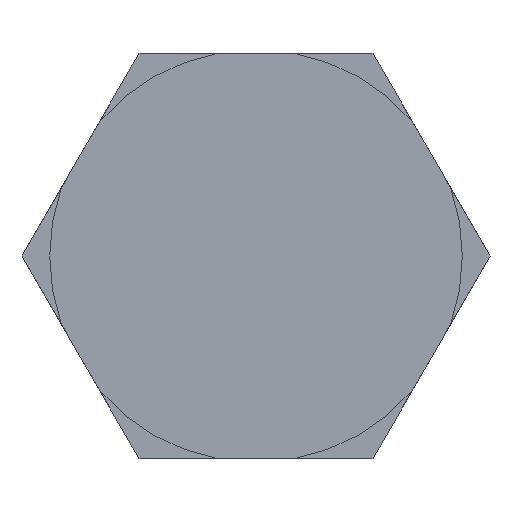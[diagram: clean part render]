
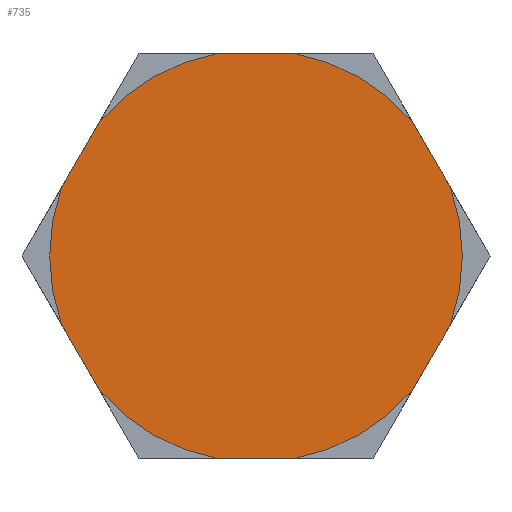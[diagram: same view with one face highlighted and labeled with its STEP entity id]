
A CAD part, left-side view. The second image highlights one B-rep face of the part: STEP entity #735.
In plain terms, the highlighted planar face has unit normal (-1, 0, 0).
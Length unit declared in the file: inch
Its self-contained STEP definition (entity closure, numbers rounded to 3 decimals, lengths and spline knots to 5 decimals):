
#35 = CIRCLE ( 'NONE', #587, 0.7635 ) ;
#112 = EDGE_LOOP ( 'NONE', ( #898, #887, #924, #881, #883, #886, #872, #935, #882, #908, #915, #932 ) ) ;
#137 = CARTESIAN_POINT ( 'NONE',  ( -3.019, -0.55577, -0.53738 ) ) ;
#139 = CARTESIAN_POINT ( 'NONE',  ( -3.019, -0.55577, 0.53738 ) ) ;
#140 = CARTESIAN_POINT ( 'NONE',  ( -3.019, 0.74327, 0.21262 ) ) ;
#145 = CARTESIAN_POINT ( 'NONE',  ( -3.019, 0.375, 0.75 ) ) ;
#149 = DIRECTION ( 'NONE',  ( 0., -0.5, 0.866 ) ) ;
#152 = DIRECTION ( 'NONE',  ( 0., 0.5, -0.866 ) ) ;
#153 = CARTESIAN_POINT ( 'NONE',  ( -3.019, 0.74327, -0.21262 ) ) ;
#154 = DIRECTION ( 'NONE',  ( 0., 1., 0. ) ) ;
#155 = DIRECTION ( 'NONE',  ( 0., 0.5, 0.866 ) ) ;
#160 = DIRECTION ( 'NONE',  ( 0., -1., 0. ) ) ;
#161 = DIRECTION ( 'NONE',  ( 0., -0.5, -0.866 ) ) ;
#163 = CARTESIAN_POINT ( 'NONE',  ( -3.019, 0.375, -0.75 ) ) ;
#167 = FACE_OUTER_BOUND ( 'NONE', #112, .T. ) ;
#184 = DIRECTION ( 'NONE',  ( 0., 0., 1. ) ) ;
#187 = CARTESIAN_POINT ( 'NONE',  ( -3.019, 0., 0. ) ) ;
#204 = DIRECTION ( 'NONE',  ( 0., 0., -1. ) ) ;
#216 = DIRECTION ( 'NONE',  ( 1., 0., 0. ) ) ;
#218 = PLANE ( 'NONE',  #559 ) ;
#222 = DIRECTION ( 'NONE',  ( 0., 0., -1. ) ) ;
#241 = DIRECTION ( 'NONE',  ( 1., 0., 0. ) ) ;
#244 = CARTESIAN_POINT ( 'NONE',  ( -3.019, 0.375, 0. ) ) ;
#255 = CARTESIAN_POINT ( 'NONE',  ( -3.019, 0., 0. ) ) ;
#261 = DIRECTION ( 'NONE',  ( -1., 0., 0. ) ) ;
#296 = CARTESIAN_POINT ( 'NONE',  ( -3.019, -0.14294, -0.75 ) ) ;
#301 = CARTESIAN_POINT ( 'NONE',  ( -3.019, -0.72099, -0.25121 ) ) ;
#302 = CARTESIAN_POINT ( 'NONE',  ( -3.019, 0.72099, -0.25121 ) ) ;
#317 = CARTESIAN_POINT ( 'NONE',  ( -3.019, -0.72099, 0.25121 ) ) ;
#320 = CARTESIAN_POINT ( 'NONE',  ( -3.019, 0.57805, -0.49879 ) ) ;
#336 = CARTESIAN_POINT ( 'NONE',  ( -3.019, -0.57805, -0.49879 ) ) ;
#347 = CARTESIAN_POINT ( 'NONE',  ( -3.019, 0.57805, 0.49879 ) ) ;
#355 = CARTESIAN_POINT ( 'NONE',  ( -3.019, -0.57805, 0.49879 ) ) ;
#356 = CARTESIAN_POINT ( 'NONE',  ( -3.019, 0.14294, -0.75 ) ) ;
#361 = CARTESIAN_POINT ( 'NONE',  ( -3.019, 0.72099, 0.25121 ) ) ;
#366 = CARTESIAN_POINT ( 'NONE',  ( -3.019, -0.14294, 0.75 ) ) ;
#371 = CARTESIAN_POINT ( 'NONE',  ( -3.019, 0.14294, 0.75 ) ) ;
#403 = VECTOR ( 'NONE', #155, 39.37008 ) ;
#404 = VECTOR ( 'NONE', #154, 39.37008 ) ;
#410 = LINE ( 'NONE', #137, #437 ) ;
#412 = LINE ( 'NONE', #139, #403 ) ;
#413 = LINE ( 'NONE', #153, #425 ) ;
#414 = VECTOR ( 'NONE', #152, 39.37008 ) ;
#425 = VECTOR ( 'NONE', #161, 39.37008 ) ;
#433 = CIRCLE ( 'NONE', #590, 0.7635 ) ;
#437 = VECTOR ( 'NONE', #149, 39.37008 ) ;
#438 = CIRCLE ( 'NONE', #591, 0.7635 ) ;
#442 = CIRCLE ( 'NONE', #589, 0.7635 ) ;
#454 = LINE ( 'NONE', #163, #460 ) ;
#458 = LINE ( 'NONE', #140, #414 ) ;
#459 = LINE ( 'NONE', #145, #404 ) ;
#460 = VECTOR ( 'NONE', #160, 39.37008 ) ;
#473 = EDGE_CURVE ( 'NONE', #927, #956, #454, .T. ) ;
#474 = EDGE_CURVE ( 'NONE', #949, #911, #412, .T. ) ;
#475 = EDGE_CURVE ( 'NONE', #940, #950, #459, .T. ) ;
#476 = EDGE_CURVE ( 'NONE', #902, #930, #458, .T. ) ;
#481 = EDGE_CURVE ( 'NONE', #954, #943, #410, .T. ) ;
#482 = EDGE_CURVE ( 'NONE', #878, #951, #413, .T. ) ;
#490 = EDGE_CURVE ( 'NONE', #954, #956, #438, .T. ) ;
#499 = EDGE_CURVE ( 'NONE', #949, #943, #433, .T. ) ;
#502 = EDGE_CURVE ( 'NONE', #902, #950, #442, .T. ) ;
#515 = EDGE_CURVE ( 'NONE', #940, #911, #35, .T. ) ;
#559 = AXIS2_PLACEMENT_3D ( 'NONE', #244, #261, #184 ) ;
#571 = AXIS2_PLACEMENT_3D ( 'NONE', #255, #241, #204 ) ;
#572 = AXIS2_PLACEMENT_3D ( 'NONE', #187, #216, #222 ) ;
#587 = AXIS2_PLACEMENT_3D ( 'NONE', #832, #847, #846 ) ;
#589 = AXIS2_PLACEMENT_3D ( 'NONE', #773, #838, #850 ) ;
#590 = AXIS2_PLACEMENT_3D ( 'NONE', #827, #788, #836 ) ;
#591 = AXIS2_PLACEMENT_3D ( 'NONE', #839, #786, #840 ) ;
#617 = EDGE_CURVE ( 'NONE', #878, #930, #631, .T. ) ;
#619 = EDGE_CURVE ( 'NONE', #927, #951, #625, .T. ) ;
#625 = CIRCLE ( 'NONE', #571, 0.7635 ) ;
#631 = CIRCLE ( 'NONE', #572, 0.7635 ) ;
#735 = ADVANCED_FACE ( 'NONE', ( #167 ), #218, .T. ) ;
#773 = CARTESIAN_POINT ( 'NONE',  ( -3.019, 0., 0. ) ) ;
#786 = DIRECTION ( 'NONE',  ( 1., 0., 0. ) ) ;
#788 = DIRECTION ( 'NONE',  ( 1., 0., 0. ) ) ;
#827 = CARTESIAN_POINT ( 'NONE',  ( -3.019, 0., 0. ) ) ;
#832 = CARTESIAN_POINT ( 'NONE',  ( -3.019, 0., 0. ) ) ;
#836 = DIRECTION ( 'NONE',  ( 0., 0., -1. ) ) ;
#838 = DIRECTION ( 'NONE',  ( 1., 0., 0. ) ) ;
#839 = CARTESIAN_POINT ( 'NONE',  ( -3.019, 0., 0. ) ) ;
#840 = DIRECTION ( 'NONE',  ( 0., 0., -1. ) ) ;
#846 = DIRECTION ( 'NONE',  ( 0., 0., -1. ) ) ;
#847 = DIRECTION ( 'NONE',  ( 1., 0., 0. ) ) ;
#850 = DIRECTION ( 'NONE',  ( 0., 0., -1. ) ) ;
#872 = ORIENTED_EDGE ( 'NONE', *, *, #499, .F. ) ;
#878 = VERTEX_POINT ( 'NONE', #302 ) ;
#881 = ORIENTED_EDGE ( 'NONE', *, *, #473, .T. ) ;
#882 = ORIENTED_EDGE ( 'NONE', *, *, #515, .F. ) ;
#883 = ORIENTED_EDGE ( 'NONE', *, *, #490, .F. ) ;
#886 = ORIENTED_EDGE ( 'NONE', *, *, #481, .T. ) ;
#887 = ORIENTED_EDGE ( 'NONE', *, *, #482, .T. ) ;
#898 = ORIENTED_EDGE ( 'NONE', *, *, #617, .F. ) ;
#902 = VERTEX_POINT ( 'NONE', #347 ) ;
#908 = ORIENTED_EDGE ( 'NONE', *, *, #475, .T. ) ;
#911 = VERTEX_POINT ( 'NONE', #355 ) ;
#915 = ORIENTED_EDGE ( 'NONE', *, *, #502, .F. ) ;
#924 = ORIENTED_EDGE ( 'NONE', *, *, #619, .F. ) ;
#927 = VERTEX_POINT ( 'NONE', #356 ) ;
#930 = VERTEX_POINT ( 'NONE', #361 ) ;
#932 = ORIENTED_EDGE ( 'NONE', *, *, #476, .T. ) ;
#935 = ORIENTED_EDGE ( 'NONE', *, *, #474, .T. ) ;
#940 = VERTEX_POINT ( 'NONE', #366 ) ;
#943 = VERTEX_POINT ( 'NONE', #301 ) ;
#949 = VERTEX_POINT ( 'NONE', #317 ) ;
#950 = VERTEX_POINT ( 'NONE', #371 ) ;
#951 = VERTEX_POINT ( 'NONE', #320 ) ;
#954 = VERTEX_POINT ( 'NONE', #336 ) ;
#956 = VERTEX_POINT ( 'NONE', #296 ) ;
